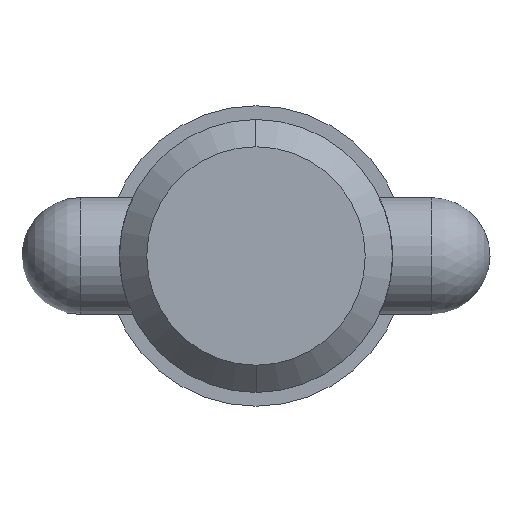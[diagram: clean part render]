
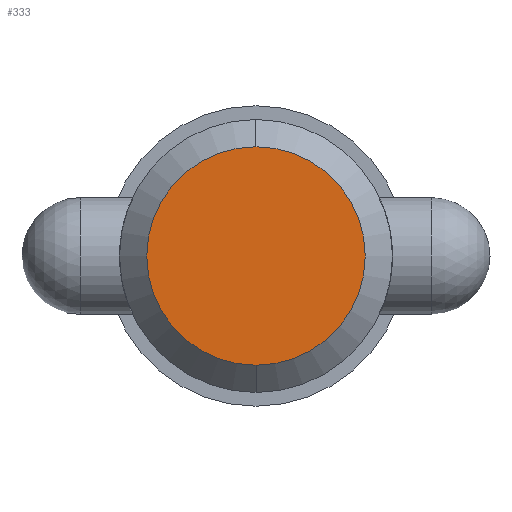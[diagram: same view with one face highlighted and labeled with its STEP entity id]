
A CAD part, left-side view. The second image highlights one B-rep face of the part: STEP entity #333.
In plain terms, the highlighted planar face has unit normal (-1, 0, 0).
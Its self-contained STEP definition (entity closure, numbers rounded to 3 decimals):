
#2 = DIRECTION ( 'NONE',  ( 1., 0., 0. ) ) ;
#26 = DIRECTION ( 'NONE',  ( 0., 0., 1. ) ) ;
#93 = ORIENTED_EDGE ( 'NONE', *, *, #365, .F. ) ;
#194 = DIRECTION ( 'NONE',  ( 0., 0., -1. ) ) ;
#262 = EDGE_LOOP ( 'NONE', ( #93, #684 ) ) ;
#264 = CARTESIAN_POINT ( 'NONE',  ( 0., 0., 8.892 ) ) ;
#333 = ADVANCED_FACE ( 'NONE', ( #682 ), #435, .T. ) ;
#340 = VERTEX_POINT ( 'NONE', #264 ) ;
#365 = EDGE_CURVE ( 'NONE', #706, #340, #1004, .T. ) ;
#407 = CARTESIAN_POINT ( 'NONE',  ( 0., 0., -8.892 ) ) ;
#435 = PLANE ( 'NONE',  #863 ) ;
#544 = AXIS2_PLACEMENT_3D ( 'NONE', #744, #2, #194 ) ;
#682 = FACE_OUTER_BOUND ( 'NONE', #262, .T. ) ;
#684 = ORIENTED_EDGE ( 'NONE', *, *, #709, .F. ) ;
#706 = VERTEX_POINT ( 'NONE', #407 ) ;
#709 = EDGE_CURVE ( 'NONE', #340, #706, #848, .T. ) ;
#744 = CARTESIAN_POINT ( 'NONE',  ( 0., 0., 0. ) ) ;
#848 = CIRCLE ( 'NONE', #544, 8.892 ) ;
#854 = CARTESIAN_POINT ( 'NONE',  ( 0., 0., 0. ) ) ;
#863 = AXIS2_PLACEMENT_3D ( 'NONE', #854, #1019, #26 ) ;
#869 = DIRECTION ( 'NONE',  ( 0., 0., -1. ) ) ;
#933 = AXIS2_PLACEMENT_3D ( 'NONE', #1014, #939, #869 ) ;
#939 = DIRECTION ( 'NONE',  ( 1., 0., 0. ) ) ;
#1004 = CIRCLE ( 'NONE', #933, 8.892 ) ;
#1014 = CARTESIAN_POINT ( 'NONE',  ( 0., 0., 0. ) ) ;
#1019 = DIRECTION ( 'NONE',  ( -1., 0., 0. ) ) ;
